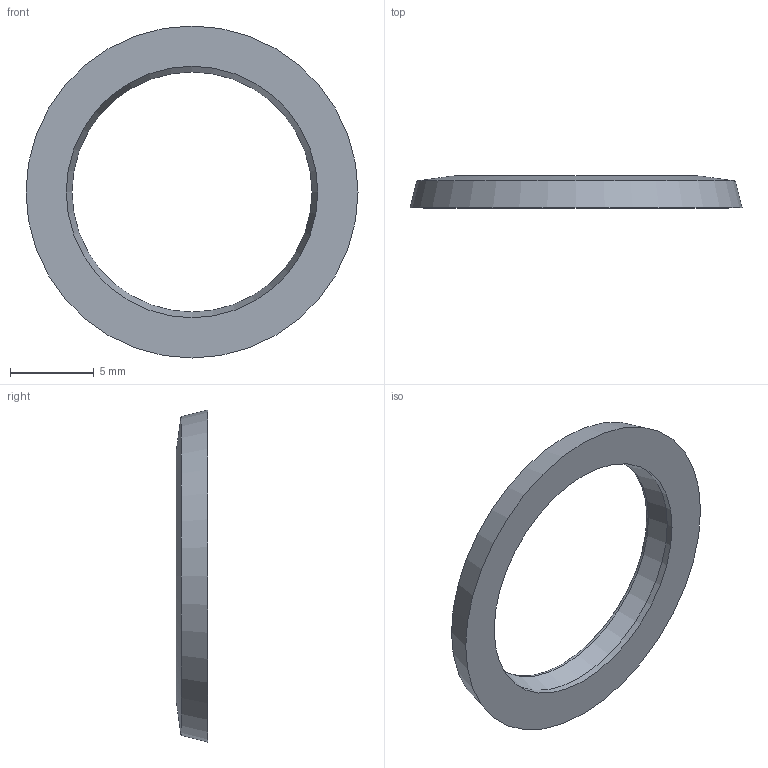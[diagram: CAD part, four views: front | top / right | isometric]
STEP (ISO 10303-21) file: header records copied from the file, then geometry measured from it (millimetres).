
FILE_DESCRIPTION( ( 'STEP AP203' ), '1' );
FILE_NAME( 'C:/Temp/Ganter_Step_05_03_2020/data/3_5/gn7600/Sealing ring GN 7600-19-15-2-EPDM-85.stp', '2020-03-12T13:43:53', ( 'License CC BY-ND 4.0' ), ( 'CADENAS' ), ' ', 'PARTsolutions', ' ' );
FILE_SCHEMA( ( 'CONFIG_CONTROL_DESIGN' ) );
Length unit declared in the file: millimetre
Products named in the file (1): _Sealing ring GN 7600-19-15-2-EPDM-85
Bounding box: 19.8 x 1.9 x 19.8 mm (x, y, z)
Volume: 217.9 mm3; surface area: 441.3 mm2
Topology: 1 solids, 1 shells, 6 faces, 11 edges, 6 vertices
Faces by surface type: cone 3, torus 1, cylinder 1, plane 1
Full cylindrical faces by diameter (mm): 15 x1
Entity records: 172 total; most frequent: DIRECTION 26, CARTESIAN_POINT 19, AXIS2_PLACEMENT_3D 13, EDGE_LOOP 12, ORIENTED_EDGE 12, FACE_OUTER_BOUND 8, ADVANCED_FACE 6, EDGE_CURVE 6
